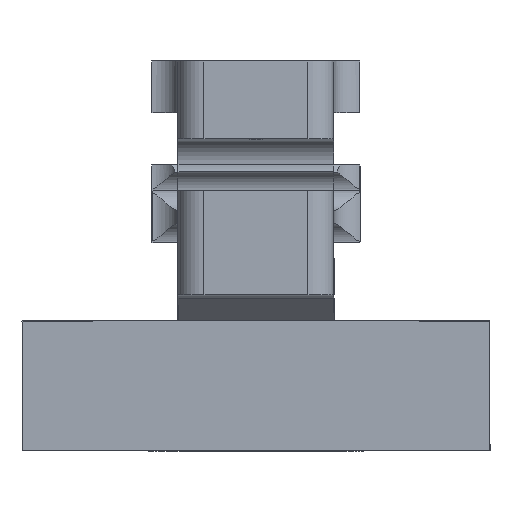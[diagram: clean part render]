
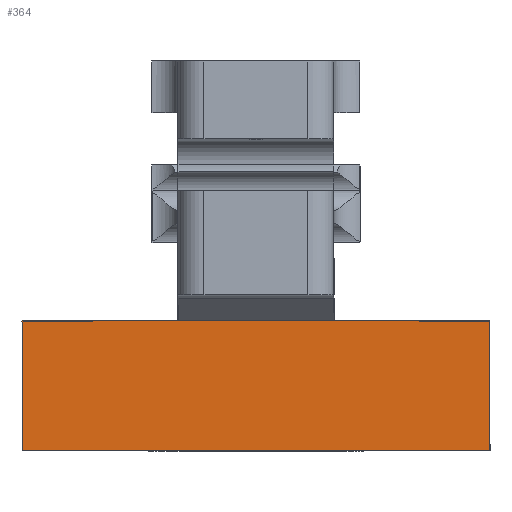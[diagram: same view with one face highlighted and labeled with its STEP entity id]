
A CAD part, front view. The second image highlights one B-rep face of the part: STEP entity #364.
In plain terms, the highlighted planar face has unit normal (0, -1, 0).
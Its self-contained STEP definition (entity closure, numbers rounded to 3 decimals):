
#364=ADVANCED_FACE('',(#548),#1938,.T.);
#548=FACE_OUTER_BOUND('',#763,.F.);
#763=EDGE_LOOP('',(#1042,#1043,#1044,#1045,#1046,#1047));
#1042=ORIENTED_EDGE('',*,*,#3976,.F.);
#1043=ORIENTED_EDGE('',*,*,#3767,.T.);
#1044=ORIENTED_EDGE('',*,*,#3975,.T.);
#1045=ORIENTED_EDGE('',*,*,#3773,.T.);
#1046=ORIENTED_EDGE('',*,*,#3871,.T.);
#1047=ORIENTED_EDGE('',*,*,#3745,.T.);
#1938=PLANE('',#4868);
#3193=LINE('',#6413,#3468);
#3213=LINE('',#6435,#3488);
#3215=LINE('',#6441,#3490);
#3251=LINE('',#6599,#3526);
#3297=LINE('',#6833,#3572);
#3298=LINE('',#6834,#3573);
#3468=VECTOR('',#5128,5.);
#3488=VECTOR('',#5152,18.);
#3490=VECTOR('',#5162,5.);
#3526=VECTOR('',#5306,8.);
#3572=VECTOR('',#5448,5.);
#3573=VECTOR('',#5449,5.);
#3745=EDGE_CURVE('',#4659,#4661,#3193,.T.);
#3767=EDGE_CURVE('',#4638,#4637,#3213,.T.);
#3773=EDGE_CURVE('',#4631,#4630,#3215,.T.);
#3871=EDGE_CURVE('',#4630,#4659,#3251,.T.);
#3975=EDGE_CURVE('',#4637,#4631,#3297,.T.);
#3976=EDGE_CURVE('',#4638,#4661,#3298,.T.);
#4630=VERTEX_POINT('',#6376);
#4631=VERTEX_POINT('',#6377);
#4637=VERTEX_POINT('',#6383);
#4638=VERTEX_POINT('',#6384);
#4659=VERTEX_POINT('',#6405);
#4661=VERTEX_POINT('',#6407);
#4868=AXIS2_PLACEMENT_3D('',#6974,#5611,#5612);
#5128=DIRECTION('',(1.,0.,0.));
#5152=DIRECTION('',(-1.,0.,0.));
#5162=DIRECTION('',(1.,0.,0.));
#5306=DIRECTION('',(1.,0.,0.));
#5448=DIRECTION('',(0.,0.,1.));
#5449=DIRECTION('',(0.,0.,1.));
#5611=DIRECTION('',(0.,-1.,0.));
#5612=DIRECTION('',(-1.,0.,0.));
#6376=CARTESIAN_POINT('',(-9.,-6.2,165.8));
#6377=CARTESIAN_POINT('',(-14.,-6.2,165.8));
#6383=CARTESIAN_POINT('',(-14.,-6.2,160.8));
#6384=CARTESIAN_POINT('',(4.,-6.2,160.8));
#6405=CARTESIAN_POINT('',(-1.,-6.2,165.8));
#6407=CARTESIAN_POINT('',(4.,-6.2,165.8));
#6413=CARTESIAN_POINT('',(-1.,-6.2,165.8));
#6435=CARTESIAN_POINT('',(4.,-6.2,160.8));
#6441=CARTESIAN_POINT('',(-14.,-6.2,165.8));
#6599=CARTESIAN_POINT('',(-9.,-6.2,165.8));
#6833=CARTESIAN_POINT('',(-14.,-6.2,160.8));
#6834=CARTESIAN_POINT('',(4.,-6.2,160.8));
#6974=CARTESIAN_POINT('',(4.18,-6.2,175.98));
